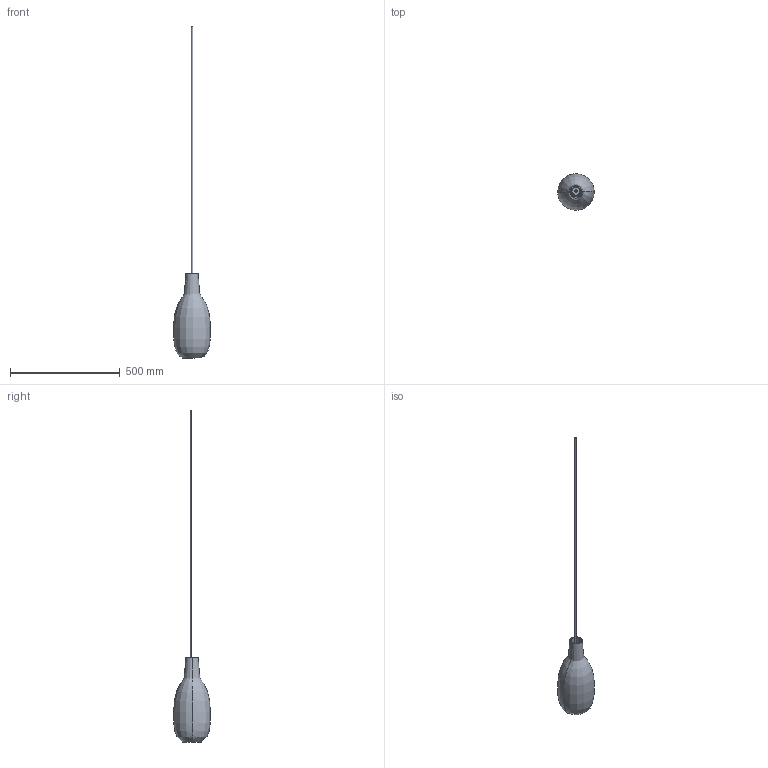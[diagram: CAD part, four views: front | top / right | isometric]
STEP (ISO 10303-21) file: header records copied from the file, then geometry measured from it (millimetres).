
FILE_DESCRIPTION(/* description */ (''),/* implementation_level */ '2;1');
FILE_NAME(/* name */ 'BKERPI~Z',/* time_stamp */ '2019-09-06T13:56:52+02:00',/* author */ (''),/* organization */ (''),/* preprocessor_version */ 'ST-DEVELOPER v16.5',/* originating_system */ '',/* authorisation */ '');
FILE_SCHEMA (('AUTOMOTIVE_DESIGN'));
Length unit declared in the file: millimetre
Products named in the file (3): Document; bulb fitting cover E27; tube
Assembly tree (2 placements, depth 2):
  Document
    bulb fitting cover E27
    tube
Bounding box: 167.69 x 167.06 x 1509.11 mm (x, y, z)
Volume: 815077.2 mm3; surface area: 355157.8 mm2
Topology: 4 solids, 4 shells, 31 faces, 60 edges, 36 vertices
Faces by surface type: bspline 24, plane 7
Entity records: 2315 total; most frequent: CARTESIAN_POINT 1871, ORIENTED_EDGE 120, EDGE_CURVE 60, EDGE_LOOP 36, VERTEX_POINT 36, ADVANCED_FACE 31, FACE_OUTER_BOUND 31, DIRECTION 23
